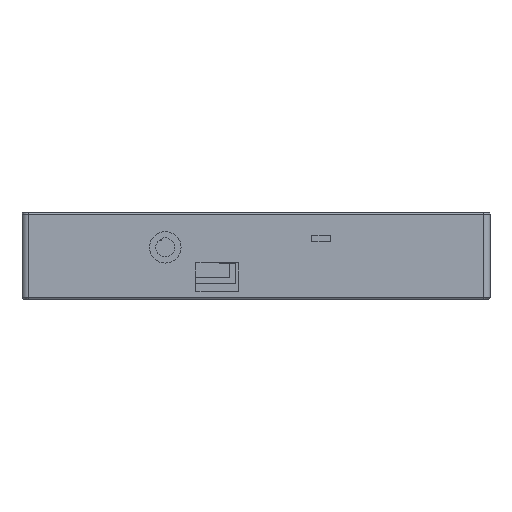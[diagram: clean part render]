
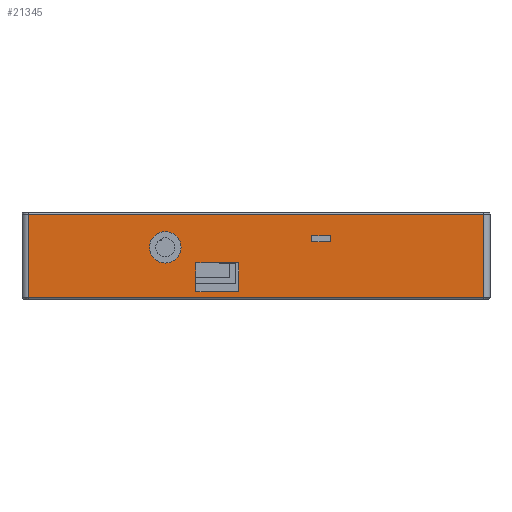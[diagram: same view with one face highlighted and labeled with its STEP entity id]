
A CAD part, front view. The second image highlights one B-rep face of the part: STEP entity #21345.
In plain terms, the highlighted planar face has unit normal (0, -1, 0).
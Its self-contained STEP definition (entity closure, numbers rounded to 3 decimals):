
#298 = EDGE_CURVE ( 'NONE', #5550, #19118, #11634, .T. ) ;
#353 = AXIS2_PLACEMENT_3D ( 'NONE', #18500, #8035, #20289 ) ;
#696 = CARTESIAN_POINT ( 'NONE',  ( -76.404, -52.967, 161.25 ) ) ;
#970 = LINE ( 'NONE', #8828, #5111 ) ;
#984 = CARTESIAN_POINT ( 'NONE',  ( -23.404, -52.967, 136.75 ) ) ;
#1044 = ORIENTED_EDGE ( 'NONE', *, *, #298, .T. ) ;
#1087 = VECTOR ( 'NONE', #11158, 1000. ) ;
#1143 = ORIENTED_EDGE ( 'NONE', *, *, #19748, .T. ) ;
#1305 = DIRECTION ( 'NONE',  ( -1., 0., 0. ) ) ;
#1410 = DIRECTION ( 'NONE',  ( 0., 0., 1. ) ) ;
#1491 = CARTESIAN_POINT ( 'NONE',  ( -33.104, -52.967, 150.75 ) ) ;
#1663 = VECTOR ( 'NONE', #21303, 1000. ) ;
#1671 = CARTESIAN_POINT ( 'NONE',  ( -4.404, -52.967, 135. ) ) ;
#1916 = EDGE_CURVE ( 'NONE', #4651, #10906, #5765, .T. ) ;
#2011 = CARTESIAN_POINT ( 'NONE',  ( 13.196, -52.967, 154.45 ) ) ;
#2462 = ORIENTED_EDGE ( 'NONE', *, *, #5733, .T. ) ;
#2541 = CARTESIAN_POINT ( 'NONE',  ( 16.196, -52.967, 152.45 ) ) ;
#2709 = VERTEX_POINT ( 'NONE', #7004 ) ;
#2839 = ORIENTED_EDGE ( 'NONE', *, *, #9338, .T. ) ;
#3245 = DIRECTION ( 'NONE',  ( 1., 0., 0. ) ) ;
#3412 = LINE ( 'NONE', #12933, #16260 ) ;
#3424 = DIRECTION ( 'NONE',  ( 1., 0., 0. ) ) ;
#3647 = VERTEX_POINT ( 'NONE', #13513 ) ;
#3698 = FACE_BOUND ( 'NONE', #22771, .T. ) ;
#3999 = CARTESIAN_POINT ( 'NONE',  ( 13.196, -52.967, 152.45 ) ) ;
#4268 = ORIENTED_EDGE ( 'NONE', *, *, #12259, .T. ) ;
#4301 = VECTOR ( 'NONE', #6711, 1000. ) ;
#4642 = ORIENTED_EDGE ( 'NONE', *, *, #9388, .T. ) ;
#4651 = VERTEX_POINT ( 'NONE', #984 ) ;
#5015 = VECTOR ( 'NONE', #12597, 1000. ) ;
#5111 = VECTOR ( 'NONE', #22711, 1000. ) ;
#5175 = CARTESIAN_POINT ( 'NONE',  ( -16.654, -52.967, 145.85 ) ) ;
#5549 = LINE ( 'NONE', #15207, #18940 ) ;
#5550 = VERTEX_POINT ( 'NONE', #3999 ) ;
#5631 = EDGE_CURVE ( 'NONE', #19118, #20915, #3412, .T. ) ;
#5672 = AXIS2_PLACEMENT_3D ( 'NONE', #6495, #20501, #9999 ) ;
#5681 = VECTOR ( 'NONE', #6939, 1000. ) ;
#5733 = EDGE_CURVE ( 'NONE', #2709, #7850, #6984, .T. ) ;
#5765 = LINE ( 'NONE', #11085, #1087 ) ;
#6306 = CIRCLE ( 'NONE', #8173, 5. ) ;
#6354 = ORIENTED_EDGE ( 'NONE', *, *, #19925, .T. ) ;
#6495 = CARTESIAN_POINT ( 'NONE',  ( -76.404, -52.967, 161.25 ) ) ;
#6711 = DIRECTION ( 'NONE',  ( -1., 0., 0. ) ) ;
#6916 = LINE ( 'NONE', #11898, #15646 ) ;
#6939 = DIRECTION ( 'NONE',  ( 1., 0., 0. ) ) ;
#6984 = CIRCLE ( 'NONE', #353, 5. ) ;
#7004 = CARTESIAN_POINT ( 'NONE',  ( -38.104, -52.967, 150.75 ) ) ;
#7850 = VERTEX_POINT ( 'NONE', #16243 ) ;
#7946 = VERTEX_POINT ( 'NONE', #696 ) ;
#7986 = DIRECTION ( 'NONE',  ( 0., 0., 1. ) ) ;
#8035 = DIRECTION ( 'NONE',  ( 0., 1., 0. ) ) ;
#8173 = AXIS2_PLACEMENT_3D ( 'NONE', #1491, #13719, #3245 ) ;
#8754 = VECTOR ( 'NONE', #14773, 1000. ) ;
#8828 = CARTESIAN_POINT ( 'NONE',  ( 19.196, -52.967, 153.45 ) ) ;
#8840 = CARTESIAN_POINT ( 'NONE',  ( 67.596, -52.967, 161.25 ) ) ;
#9338 = EDGE_CURVE ( 'NONE', #20725, #4651, #13600, .T. ) ;
#9388 = EDGE_CURVE ( 'NONE', #10906, #18389, #19633, .T. ) ;
#9970 = VECTOR ( 'NONE', #7986, 1000. ) ;
#9999 = DIRECTION ( 'NONE',  ( 0., 0., -1. ) ) ;
#10366 = ORIENTED_EDGE ( 'NONE', *, *, #5631, .T. ) ;
#10511 = ORIENTED_EDGE ( 'NONE', *, *, #13904, .T. ) ;
#10906 = VERTEX_POINT ( 'NONE', #13898 ) ;
#11042 = EDGE_LOOP ( 'NONE', ( #6354, #1143, #14943, #21747 ) ) ;
#11085 = CARTESIAN_POINT ( 'NONE',  ( -23.404, -52.967, 141.3 ) ) ;
#11158 = DIRECTION ( 'NONE',  ( 0., 0., 1. ) ) ;
#11634 = LINE ( 'NONE', #16685, #9970 ) ;
#11898 = CARTESIAN_POINT ( 'NONE',  ( 67.596, -52.967, 148.125 ) ) ;
#12149 = LINE ( 'NONE', #1671, #14053 ) ;
#12259 = EDGE_CURVE ( 'NONE', #18389, #20725, #15047, .T. ) ;
#12335 = EDGE_CURVE ( 'NONE', #22168, #5550, #14527, .T. ) ;
#12453 = FACE_BOUND ( 'NONE', #17325, .T. ) ;
#12597 = DIRECTION ( 'NONE',  ( 0., 0., -1. ) ) ;
#12933 = CARTESIAN_POINT ( 'NONE',  ( 16.196, -52.967, 154.45 ) ) ;
#13513 = CARTESIAN_POINT ( 'NONE',  ( 67.596, -52.967, 135. ) ) ;
#13600 = LINE ( 'NONE', #15402, #4301 ) ;
#13719 = DIRECTION ( 'NONE',  ( 0., 1., 0. ) ) ;
#13898 = CARTESIAN_POINT ( 'NONE',  ( -23.404, -52.967, 145.85 ) ) ;
#13904 = EDGE_CURVE ( 'NONE', #20915, #22168, #970, .T. ) ;
#14053 = VECTOR ( 'NONE', #3424, 1000. ) ;
#14307 = LINE ( 'NONE', #16033, #5015 ) ;
#14527 = LINE ( 'NONE', #2541, #8754 ) ;
#14616 = VERTEX_POINT ( 'NONE', #21298 ) ;
#14690 = DIRECTION ( 'NONE',  ( 1., 0., 0. ) ) ;
#14773 = DIRECTION ( 'NONE',  ( -1., 0., 0. ) ) ;
#14943 = ORIENTED_EDGE ( 'NONE', *, *, #20346, .T. ) ;
#15047 = LINE ( 'NONE', #17722, #1663 ) ;
#15207 = CARTESIAN_POINT ( 'NONE',  ( -4.404, -52.967, 161.25 ) ) ;
#15340 = ORIENTED_EDGE ( 'NONE', *, *, #12335, .T. ) ;
#15402 = CARTESIAN_POINT ( 'NONE',  ( -16.654, -52.967, 136.75 ) ) ;
#15410 = EDGE_CURVE ( 'NONE', #19880, #7946, #5549, .T. ) ;
#15646 = VECTOR ( 'NONE', #1410, 1000. ) ;
#16033 = CARTESIAN_POINT ( 'NONE',  ( -76.404, -52.967, 148.125 ) ) ;
#16243 = CARTESIAN_POINT ( 'NONE',  ( -28.104, -52.967, 150.75 ) ) ;
#16260 = VECTOR ( 'NONE', #14690, 1000. ) ;
#16592 = CARTESIAN_POINT ( 'NONE',  ( -9.904, -52.967, 136.75 ) ) ;
#16673 = EDGE_CURVE ( 'NONE', #7850, #2709, #6306, .T. ) ;
#16685 = CARTESIAN_POINT ( 'NONE',  ( 13.196, -52.967, 153.45 ) ) ;
#16766 = CARTESIAN_POINT ( 'NONE',  ( 19.196, -52.967, 152.45 ) ) ;
#17051 = CARTESIAN_POINT ( 'NONE',  ( 19.196, -52.967, 154.45 ) ) ;
#17099 = FACE_BOUND ( 'NONE', #18209, .T. ) ;
#17325 = EDGE_LOOP ( 'NONE', ( #4268, #2839, #21074, #4642 ) ) ;
#17722 = CARTESIAN_POINT ( 'NONE',  ( -9.904, -52.967, 141.3 ) ) ;
#18209 = EDGE_LOOP ( 'NONE', ( #20953, #2462 ) ) ;
#18389 = VERTEX_POINT ( 'NONE', #20094 ) ;
#18500 = CARTESIAN_POINT ( 'NONE',  ( -33.104, -52.967, 150.75 ) ) ;
#18717 = PLANE ( 'NONE',  #5672 ) ;
#18940 = VECTOR ( 'NONE', #1305, 1000. ) ;
#19118 = VERTEX_POINT ( 'NONE', #2011 ) ;
#19633 = LINE ( 'NONE', #5175, #5681 ) ;
#19748 = EDGE_CURVE ( 'NONE', #14616, #3647, #12149, .T. ) ;
#19880 = VERTEX_POINT ( 'NONE', #8840 ) ;
#19925 = EDGE_CURVE ( 'NONE', #7946, #14616, #14307, .T. ) ;
#20094 = CARTESIAN_POINT ( 'NONE',  ( -9.904, -52.967, 145.85 ) ) ;
#20289 = DIRECTION ( 'NONE',  ( 1., 0., 0. ) ) ;
#20346 = EDGE_CURVE ( 'NONE', #3647, #19880, #6916, .T. ) ;
#20501 = DIRECTION ( 'NONE',  ( 0., -1., 0. ) ) ;
#20725 = VERTEX_POINT ( 'NONE', #16592 ) ;
#20915 = VERTEX_POINT ( 'NONE', #17051 ) ;
#20953 = ORIENTED_EDGE ( 'NONE', *, *, #16673, .T. ) ;
#21074 = ORIENTED_EDGE ( 'NONE', *, *, #1916, .T. ) ;
#21249 = FACE_OUTER_BOUND ( 'NONE', #11042, .T. ) ;
#21298 = CARTESIAN_POINT ( 'NONE',  ( -76.404, -52.967, 135. ) ) ;
#21303 = DIRECTION ( 'NONE',  ( 0., 0., -1. ) ) ;
#21345 = ADVANCED_FACE ( 'NONE', ( #3698, #17099, #12453, #21249 ), #18717, .T. ) ;
#21747 = ORIENTED_EDGE ( 'NONE', *, *, #15410, .T. ) ;
#22168 = VERTEX_POINT ( 'NONE', #16766 ) ;
#22711 = DIRECTION ( 'NONE',  ( 0., 0., -1. ) ) ;
#22771 = EDGE_LOOP ( 'NONE', ( #10511, #15340, #1044, #10366 ) ) ;
